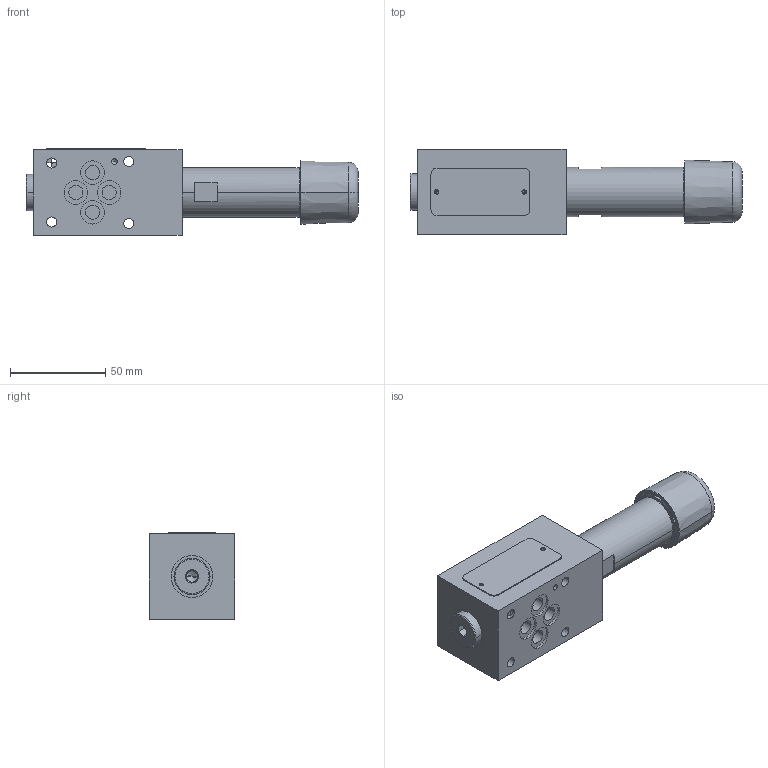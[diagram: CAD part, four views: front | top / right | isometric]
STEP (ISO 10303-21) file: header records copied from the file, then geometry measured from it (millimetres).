
FILE_DESCRIPTION((''),'2;1');
FILE_NAME('VRN2_06_MB_160020_ASM','2018-10-16T',('l.soukupova'),(''),'PRO/ENGINEER BY PARAMETRIC TECHNOLOGY CORPORATION, 2015440','PRO/ENGINEER BY PARAMETRIC TECHNOLOGY CORPORATION, 2015440','');
FILE_SCHEMA(('AUTOMOTIVE_DESIGN { 1 0 10303 214 1 1 1 1 }'));
Length unit declared in the file: millimetre
Products named in the file (5): IMP_VRN2_06_MB; RD_LABEL_25X52; VSTI_1_4_ED_154763; VRN2_06_S_S_AF1; VRN2_06_MB_160020_ASM
Assembly tree (4 placements, depth 2):
  VRN2_06_MB_160020_ASM
    IMP_VRN2_06_MB
    RD_LABEL_25X52
    VSTI_1_4_ED_154763
    VRN2_06_S_S_AF1
Bounding box: 174.5 x 45 x 45.5 mm (x, y, z)
Volume: 188114.4 mm3; surface area: 50557.5 mm2
Topology: 5 solids, 11 shells, 335 faces, 849 edges, 600 vertices
Faces by surface type: cylinder 148, plane 83, cone 74, torus 30
Entity records: 16714 total; most frequent: CARTESIAN_POINT 4464, DIRECTION 1859, ORIENTED_EDGE 1496, PRESENTATION_STYLE_ASSIGNMENT 974, STYLED_ITEM 874, CURVE_STYLE 864, EDGE_CURVE 760, AXIS2_PLACEMENT_3D 751
